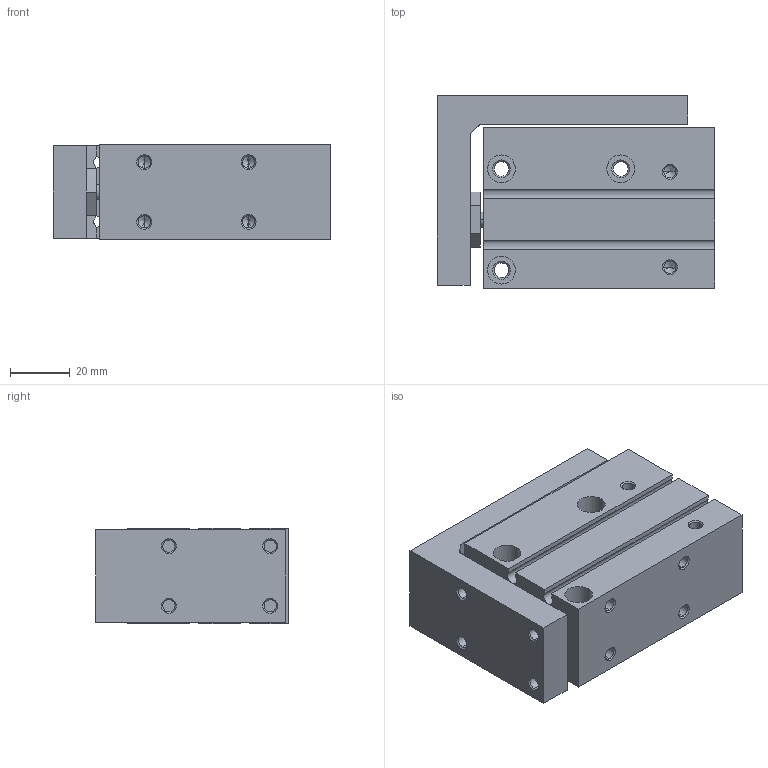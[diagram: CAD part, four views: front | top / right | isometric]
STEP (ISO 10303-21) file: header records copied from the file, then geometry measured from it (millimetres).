
FILE_DESCRIPTION (( 'STEP AP203' ), '1' );
FILE_NAME ('CXH20-25.STEP', '2020-04-16T18:15:22', ( '' ), ( '' ), 'SwSTEP 2.0', 'SolidWorks 2019', '' );
FILE_SCHEMA (( 'CONFIG_CONTROL_DESIGN' ));
Length unit declared in the file: millimetre
Products named in the file (1): CXH20-25
Bounding box: 93 x 64.5 x 32 mm (x, y, z)
Volume: 158565 mm3; surface area: 41052.3 mm2
Topology: 2 solids, 2 shells, 210 faces, 499 edges, 288 vertices
Faces by surface type: cone 90, cylinder 76, plane 44
Entity records: 6040 total; most frequent: DIRECTION 1099, CARTESIAN_POINT 1080, ORIENTED_EDGE 942, EDGE_CURVE 471, AXIS2_PLACEMENT_3D 423, VERTEX_POINT 288, EDGE_LOOP 255, LINE 253
